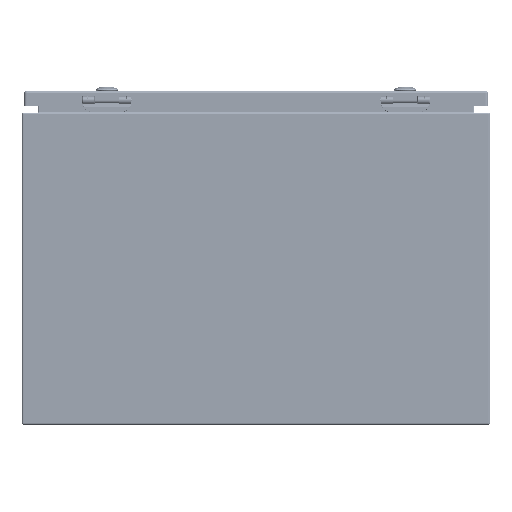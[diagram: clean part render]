
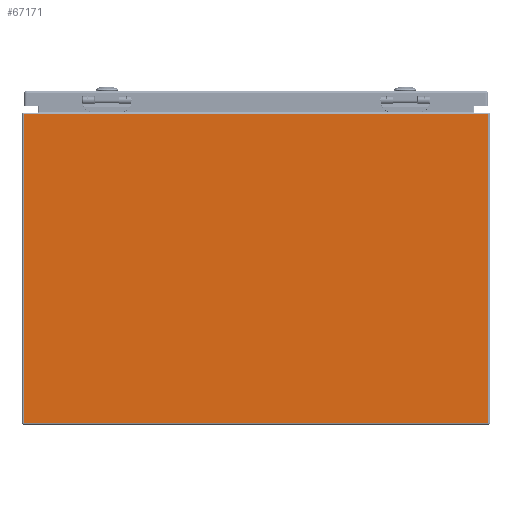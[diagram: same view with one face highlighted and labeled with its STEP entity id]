
A CAD part, left-side view. The second image highlights one B-rep face of the part: STEP entity #67171.
In plain terms, the highlighted planar face has unit normal (-1, 0, 0).
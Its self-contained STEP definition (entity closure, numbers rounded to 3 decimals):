
#6818=LINE('',#94465,#10945);
#6819=LINE('',#94472,#10946);
#6820=LINE('',#94474,#10947);
#6821=LINE('',#94475,#10948);
#10945=VECTOR('',#78259,0.394);
#10946=VECTOR('',#78268,0.394);
#10947=VECTOR('',#78269,0.394);
#10948=VECTOR('',#78270,0.394);
#16150=FACE_OUTER_BOUND('',#20310,.T.);
#20310=EDGE_LOOP('',(#44655,#44656,#44657,#44658));
#27282=VERTEX_POINT('',#94454);
#27285=VERTEX_POINT('',#94461);
#27288=VERTEX_POINT('',#94471);
#27289=VERTEX_POINT('',#94473);
#33967=EDGE_CURVE('',#27282,#27285,#6818,.T.);
#33970=EDGE_CURVE('',#27288,#27282,#6819,.T.);
#33971=EDGE_CURVE('',#27289,#27288,#6820,.T.);
#33972=EDGE_CURVE('',#27289,#27285,#6821,.T.);
#44655=ORIENTED_EDGE('',*,*,#33967,.F.);
#44656=ORIENTED_EDGE('',*,*,#33970,.F.);
#44657=ORIENTED_EDGE('',*,*,#33971,.F.);
#44658=ORIENTED_EDGE('',*,*,#33972,.T.);
#65703=PLANE('',#72205);
#67171=ADVANCED_FACE('',(#16150),#65703,.F.);
#72205=AXIS2_PLACEMENT_3D('',#94470,#78266,#78267);
#78259=DIRECTION('',(0.,0.,-1.));
#78266=DIRECTION('center_axis',(1.,0.,0.));
#78267=DIRECTION('ref_axis',(0.,0.,-1.));
#78268=DIRECTION('',(0.,-1.,0.));
#78269=DIRECTION('',(0.,0.,1.));
#78270=DIRECTION('',(0.,-1.,0.));
#94454=CARTESIAN_POINT('',(-12.,-11.916,15.916));
#94461=CARTESIAN_POINT('',(-12.,-11.916,0.084));
#94465=CARTESIAN_POINT('',(-12.,-11.916,15.916));
#94470=CARTESIAN_POINT('Origin',(-12.,-11.078,15.916));
#94471=CARTESIAN_POINT('',(-12.,11.916,15.916));
#94472=CARTESIAN_POINT('',(-12.,11.078,15.916));
#94473=CARTESIAN_POINT('',(-12.,11.916,0.084));
#94474=CARTESIAN_POINT('',(-12.,11.916,15.916));
#94475=CARTESIAN_POINT('',(-12.,0.,0.084));
